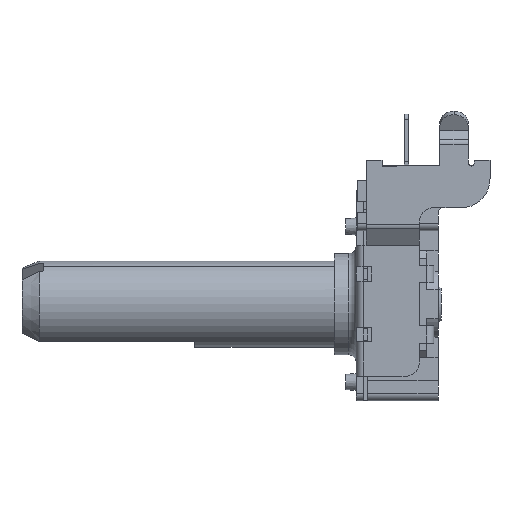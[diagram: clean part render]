
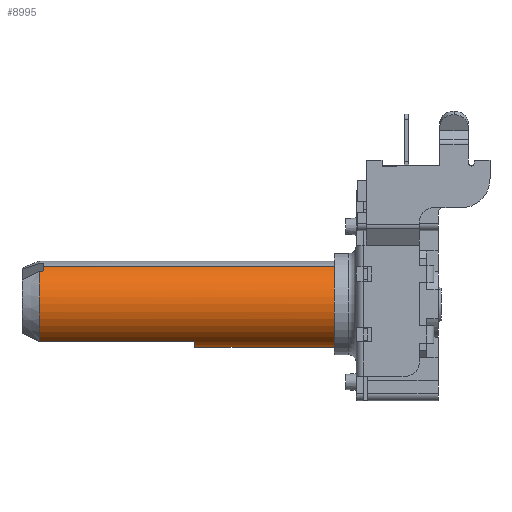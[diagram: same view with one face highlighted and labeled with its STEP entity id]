
A CAD part, left-side view. The second image highlights one B-rep face of the part: STEP entity #8995.
In plain terms, the highlighted cylindrical face has radius 3 mm (diameter 6 mm), a partial arc.
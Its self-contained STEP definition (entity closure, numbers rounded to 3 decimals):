
#375 = LINE ( 'NONE', #12706, #14742 ) ;
#381 = CARTESIAN_POINT ( 'NONE',  ( 0., 14.3, 3. ) ) ;
#387 = ORIENTED_EDGE ( 'NONE', *, *, #6694, .F. ) ;
#516 = EDGE_CURVE ( 'NONE', #15198, #7687, #4913, .T. ) ;
#972 = VERTEX_POINT ( 'NONE', #12553 ) ;
#1030 = VERTEX_POINT ( 'NONE', #381 ) ;
#1208 = CARTESIAN_POINT ( 'NONE',  ( 0.55, 25.1, -2.949 ) ) ;
#1401 = LINE ( 'NONE', #1636, #12850 ) ;
#1475 = CARTESIAN_POINT ( 'NONE',  ( 2.598, 25.1, 1.5 ) ) ;
#1560 = DIRECTION ( 'NONE',  ( 0., -1., 0. ) ) ;
#1622 = CARTESIAN_POINT ( 'NONE',  ( 0., 25.1, 0. ) ) ;
#1636 = CARTESIAN_POINT ( 'NONE',  ( 0., 25.1, 3. ) ) ;
#1694 = VERTEX_POINT ( 'NONE', #6115 ) ;
#1922 = VERTEX_POINT ( 'NONE', #1475 ) ;
#2045 = CIRCLE ( 'NONE', #3563, 3. ) ;
#2080 = LINE ( 'NONE', #14459, #6838 ) ;
#2503 = CARTESIAN_POINT ( 'NONE',  ( 0.533, 25., -2.952 ) ) ;
#2741 = CIRCLE ( 'NONE', #8101, 3. ) ;
#2757 = EDGE_CURVE ( 'NONE', #1922, #15198, #2741, .T. ) ;
#2813 = AXIS2_PLACEMENT_3D ( 'NONE', #1622, #11631, #5453 ) ;
#2976 = CARTESIAN_POINT ( 'NONE',  ( 0., 24.8, 0. ) ) ;
#3087 = VERTEX_POINT ( 'NONE', #3948 ) ;
#3433 = CARTESIAN_POINT ( 'NONE',  ( 0., 24.8, -3. ) ) ;
#3563 = AXIS2_PLACEMENT_3D ( 'NONE', #8854, #15095, #9018 ) ;
#3866 = DIRECTION ( 'NONE',  ( 0., -1., 0. ) ) ;
#3909 = ORIENTED_EDGE ( 'NONE', *, *, #2757, .F. ) ;
#3948 = CARTESIAN_POINT ( 'NONE',  ( 2.598, 14.3, 1.5 ) ) ;
#4249 = DIRECTION ( 'NONE',  ( 0., 0., -1. ) ) ;
#4676 = ORIENTED_EDGE ( 'NONE', *, *, #516, .F. ) ;
#4913 =( BOUNDED_CURVE ( )  B_SPLINE_CURVE ( 3, ( #12273, #2503, #14823, #6091 ),
 .UNSPECIFIED., .F., .F. ) 
 B_SPLINE_CURVE_WITH_KNOTS ( ( 4, 4 ),
 ( 4.528, 4.545 ),
 .UNSPECIFIED. ) 
 CURVE ( )  GEOMETRIC_REPRESENTATION_ITEM ( )  RATIONAL_B_SPLINE_CURVE ( ( 1., 1., 1., 1. ) ) 
 REPRESENTATION_ITEM ( '' )  );
#5064 = CIRCLE ( 'NONE', #6336, 3. ) ;
#5453 = DIRECTION ( 'NONE',  ( 0., 0., -1. ) ) ;
#6091 = CARTESIAN_POINT ( 'NONE',  ( 0.5, 24.8, -2.958 ) ) ;
#6115 = CARTESIAN_POINT ( 'NONE',  ( 0., 2.5, -3. ) ) ;
#6131 = EDGE_CURVE ( 'NONE', #10910, #1694, #2080, .T. ) ;
#6336 = AXIS2_PLACEMENT_3D ( 'NONE', #2976, #9143, #4249 ) ;
#6694 = EDGE_CURVE ( 'NONE', #7687, #10910, #5064, .T. ) ;
#6838 = VECTOR ( 'NONE', #3866, 1000. ) ;
#7687 = VERTEX_POINT ( 'NONE', #12792 ) ;
#7728 = CARTESIAN_POINT ( 'NONE',  ( 0., 25.1, 0. ) ) ;
#8101 = AXIS2_PLACEMENT_3D ( 'NONE', #7728, #13976, #11427 ) ;
#8552 = EDGE_CURVE ( 'NONE', #3087, #1922, #375, .T. ) ;
#8854 = CARTESIAN_POINT ( 'NONE',  ( 0., 14.3, 0. ) ) ;
#8995 = ADVANCED_FACE ( 'NONE', ( #13864 ), #12666, .T. ) ;
#9018 = DIRECTION ( 'NONE',  ( 0., 0., 1. ) ) ;
#9143 = DIRECTION ( 'NONE',  ( 0., 1., 0. ) ) ;
#9566 = DIRECTION ( 'NONE',  ( 0., 0., 1. ) ) ;
#9734 = AXIS2_PLACEMENT_3D ( 'NONE', #11014, #12200, #9566 ) ;
#9739 = ORIENTED_EDGE ( 'NONE', *, *, #10551, .T. ) ;
#9865 = ORIENTED_EDGE ( 'NONE', *, *, #8552, .F. ) ;
#9988 = CIRCLE ( 'NONE', #9734, 3. ) ;
#10551 = EDGE_CURVE ( 'NONE', #972, #1694, #9988, .T. ) ;
#10910 = VERTEX_POINT ( 'NONE', #3433 ) ;
#11014 = CARTESIAN_POINT ( 'NONE',  ( 0., 2.5, 0. ) ) ;
#11396 = ORIENTED_EDGE ( 'NONE', *, *, #13076, .T. ) ;
#11427 = DIRECTION ( 'NONE',  ( 0., 0., 1. ) ) ;
#11539 = ORIENTED_EDGE ( 'NONE', *, *, #6131, .F. ) ;
#11549 = EDGE_CURVE ( 'NONE', #1030, #3087, #2045, .T. ) ;
#11631 = DIRECTION ( 'NONE',  ( 0., -1., 0. ) ) ;
#12200 = DIRECTION ( 'NONE',  ( 0., 1., 0. ) ) ;
#12273 = CARTESIAN_POINT ( 'NONE',  ( 0.55, 25.1, -2.949 ) ) ;
#12541 = ORIENTED_EDGE ( 'NONE', *, *, #11549, .F. ) ;
#12553 = CARTESIAN_POINT ( 'NONE',  ( 0., 2.5, 3. ) ) ;
#12666 = CYLINDRICAL_SURFACE ( 'NONE', #2813, 3. ) ;
#12706 = CARTESIAN_POINT ( 'NONE',  ( 2.598, 14.3, 1.5 ) ) ;
#12792 = CARTESIAN_POINT ( 'NONE',  ( 0.5, 24.8, -2.958 ) ) ;
#12850 = VECTOR ( 'NONE', #1560, 1000. ) ;
#13076 = EDGE_CURVE ( 'NONE', #1030, #972, #1401, .T. ) ;
#13864 = FACE_OUTER_BOUND ( 'NONE', #14334, .T. ) ;
#13976 = DIRECTION ( 'NONE',  ( 0., 1., 0. ) ) ;
#14334 = EDGE_LOOP ( 'NONE', ( #12541, #11396, #9739, #11539, #387, #4676, #3909, #9865 ) ) ;
#14459 = CARTESIAN_POINT ( 'NONE',  ( 0., 25.1, -3. ) ) ;
#14742 = VECTOR ( 'NONE', #14866, 1000. ) ;
#14823 = CARTESIAN_POINT ( 'NONE',  ( 0.517, 24.9, -2.955 ) ) ;
#14866 = DIRECTION ( 'NONE',  ( 0., 1., 0. ) ) ;
#15095 = DIRECTION ( 'NONE',  ( 0., 1., 0. ) ) ;
#15198 = VERTEX_POINT ( 'NONE', #1208 ) ;
